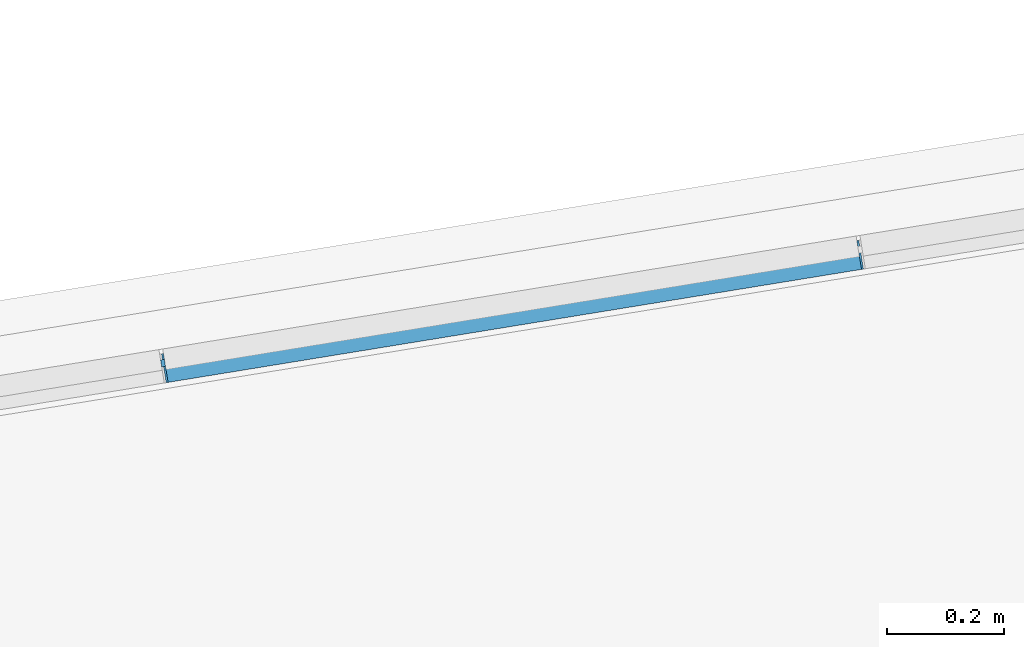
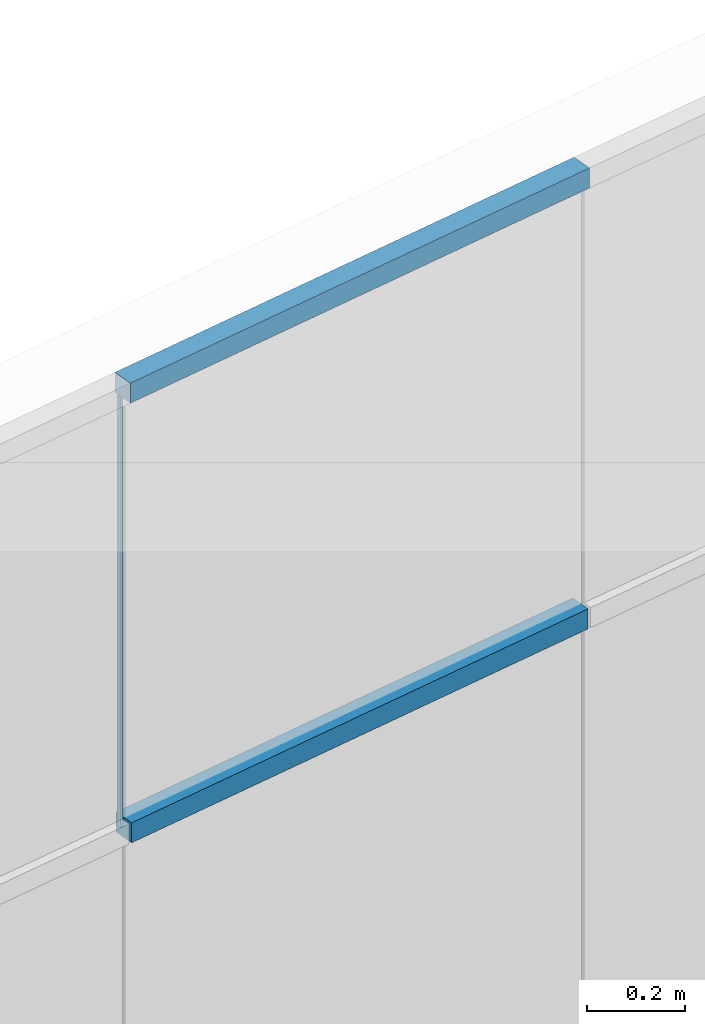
# One storey, part 3 of 13: 3 members, 1 element without a shape of its own.
"""IFC2X3 building model written with IfcOpenShell, lengths in millimetres."""

from ifc_helpers import new_model, entity, si_unit, converted_unit, derived_unit, direction, frame, origin, origin_with_axes, origin_2d_with_axis, place, context, subcontext, project, spatial, rectangle, extrude, source, transform, mapped, material, type_object, element, aggregate, save


model = new_model("IFC2X3")

# Units and contexts
plan_context = context("Plan", 3, precision=1e-05, world=origin_with_axes())
model_context = context("Model", 3, precision=0.01, world=origin(), true_north=direction((6.12323399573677e-17, 1.0)))
body_context = subcontext(model_context, "Body", "Model", "MODEL_VIEW")
ifc_project = project(units=[converted_unit("PLANEANGLEUNIT", "DEGREE", entity("IfcPositiveLengthMeasure", 0.0174532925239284), si_unit("PLANEANGLEUNIT", "RADIAN"), dimensions=[0, 0, 0, 0, 0, 0, 0]), si_unit("AREAUNIT", "SQUARE_METRE"), si_unit("LENGTHUNIT", "METRE", prefix="MILLI"), si_unit("MASSUNIT", "GRAM", prefix="KILO"), si_unit("POWERUNIT", "WATT"), si_unit("PRESSUREUNIT", "PASCAL", prefix="KILO"), si_unit("FORCEUNIT", "NEWTON", prefix="KILO"), si_unit("ELECTRICVOLTAGEUNIT", "VOLT"), si_unit("ELECTRICCURRENTUNIT", "AMPERE"), si_unit("THERMODYNAMICTEMPERATUREUNIT", "DEGREE_CELSIUS"), si_unit("TIMEUNIT", "SECOND"), si_unit("VOLUMEUNIT", "CUBIC_METRE"), derived_unit("LINEARVELOCITYUNIT", [(si_unit("LENGTHUNIT", "METRE"), 1), (si_unit("TIMEUNIT", "SECOND"), -1)]), derived_unit("VOLUMETRICFLOWRATEUNIT", [(si_unit("VOLUMEUNIT", "CUBIC_METRE"), 1), (si_unit("TIMEUNIT", "SECOND"), -1)]), derived_unit("THERMALTRANSMITTANCEUNIT", [(si_unit("POWERUNIT", "WATT"), 1), (si_unit("THERMODYNAMICTEMPERATUREUNIT", "KELVIN"), -1), (si_unit("AREAUNIT", "SQUARE_METRE"), -1)]), derived_unit("SOUNDPRESSUREUNIT", [(si_unit("PRESSUREUNIT", "PASCAL"), 1)])], contexts=[model_context, plan_context])

# Site, building, storey
site_placement = place(None, frame((-305029.896016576, -232111.759730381, 0.0), z_axis=(0.0, 0.0, 1.0), x_axis=(-0.160806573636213, 0.986985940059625, 0.0)))
site = spatial("IfcSite", under=ifc_project, at=site_placement, Name="Default", CompositionType="ELEMENT")
building_placement = place(site_placement, frame((0.0, 0.0, 0.0), z_axis=(0.0, 0.0, 1.0), x_axis=(1.0, -2.77555756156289e-17, 0.0)))
building = spatial("IfcBuilding", under=site, at=building_placement, Name="br001-a-200-1-0001", CompositionType="ELEMENT")
storey_placement = place(building_placement, frame((0.0, 0.0, 51360.0000000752), z_axis=(0.0, 0.0, 1.0), x_axis=(1.0, -2.77555756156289e-17, 0.0)))
storey = spatial("IfcBuildingStorey", under=building, at=storey_placement, Name="H01-Nivå D+0,36", CompositionType="ELEMENT", Elevation=51360.0000000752)

# Curtain wall, members
curtain_wall_type = type_object("IfcCurtainWallType", Name="Curtain Wall:A243 Innvendig glassvegg", PredefinedType="NOTDEFINED")
curtain_wall_placement = place(storey_placement, frame((0.0, 0.0, -51360.0000000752), z_axis=(0.0, 0.0, 1.0), x_axis=(1.0, -2.77555756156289e-17, 0.0)))
curtain_wall = element("IfcCurtainWall", 1, at=curtain_wall_placement, inside=storey, type_object=curtain_wall_type, Name="Curtain Wall:A243 Innvendig glassvegg", ObjectType="Curtain Wall:A243 Innvendig glassvegg")
ifc_material_1 = material(Name="Metal - Aluminium")
member_type_1 = type_object("IfcMemberType", Name="Rectangular Mullion:NSW 50x50 Add on", PredefinedType="MULLION", material=ifc_material_1)
shared_shape_1 = source(origin(), body_context, "Body", "SweptSolid", [
    extrude(rectangle(XDim=50.0, YDim=50.0, at=origin_2d_with_axis()), frame((-25.0, 15.0, -1211.6666666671), z_axis=(0.0, 0.0, 1.0), x_axis=(-1.0, 0.0, 0.0)), (0.0, 0.0, 1.0), 1211.6666666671),
])
member_1_placement = place(curtain_wall_placement, frame((1160258.59858442, -707274.711700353, 54730.0000000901), z_axis=(-2.77555756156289e-17, -1.0, 0.0), x_axis=(0.0, 0.0, 1.0)))
member_1 = element("IfcMember", 2, at=member_1_placement, type_object=member_type_1, material=ifc_material_1, Name="Rectangular Mullion:NSW 50x50 Add on", ObjectType="Rectangular Mullion:NSW 50x50 Add on", context=body_context, shape_type="MappedRepresentation", body=[
    mapped(shared_shape_1, transform((0.0, 0.0, 0.0), scale=1.0)),
])
ifc_material_2 = material(Name="T2 - Rubber")
member_type_2 = type_object("IfcMemberType", Name="Rectangular Mullion:6.66x12", PredefinedType="MULLION", material=ifc_material_2)
shared_shape_2 = source(origin(), body_context, "Body", "SweptSolid", [
    extrude(rectangle(XDim=6.6, YDim=12.0, at=origin_2d_with_axis()), frame((0.0, 6.0, -1073.3333333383), z_axis=(0.0, 0.0, 1.0), x_axis=(-1.0, 0.0, 0.0)), (0.0, 0.0, 1.0), 1073.3333333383),
])
member_2_placement = place(curtain_wall_placement, frame((1160258.59858442, -706063.045033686, 53606.6666667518), z_axis=(0.0, 0.0, -1.0), x_axis=(-2.77555756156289e-17, -1.0, 0.0)))
member_2 = element("IfcMember", 3, at=member_2_placement, type_object=member_type_2, material=ifc_material_2, Name="Rectangular Mullion:6.66x12", ObjectType="Rectangular Mullion:6.66x12", context=body_context, shape_type="MappedRepresentation", body=[
    mapped(shared_shape_2, transform((0.0, 0.0, 0.0), scale=1.0)),
])
member_type_3 = type_object("IfcMemberType", Name="Rectangular Mullion:NSW 50x50 Add on", PredefinedType="MULLION", material=ifc_material_1)
shared_shape_3 = source(origin(), body_context, "Body", "SweptSolid", [
    extrude(rectangle(XDim=50.0, YDim=50.0, at=origin_2d_with_axis()), frame((0.0, 15.0, -1205.06666666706), z_axis=(0.0, 0.0, 1.0), x_axis=(-1.0, 0.0, 0.0)), (0.0, 0.0, 1.0), 1205.0666666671),
])
member_3_placement = place(curtain_wall_placement, frame((1160258.59858442, -707271.411700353, 53606.6666667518), z_axis=(-2.77555756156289e-17, -1.0, 0.0), x_axis=(0.0, 0.0, 1.0)))
member_3 = element("IfcMember", 4, at=member_3_placement, type_object=member_type_3, material=ifc_material_1, Name="Rectangular Mullion:NSW 50x50 Add on", ObjectType="Rectangular Mullion:NSW 50x50 Add on", context=body_context, shape_type="MappedRepresentation", body=[
    mapped(shared_shape_3, transform((0.0, 0.0, 0.0), scale=1.0)),
])
aggregate(curtain_wall, [member_1, member_2, member_3])

save(model, "model.ifc")
